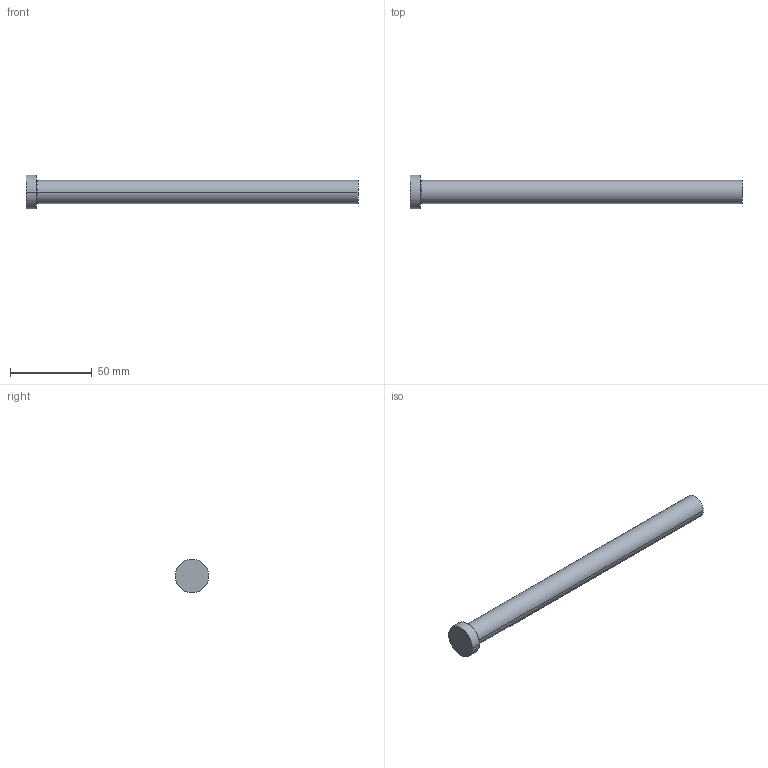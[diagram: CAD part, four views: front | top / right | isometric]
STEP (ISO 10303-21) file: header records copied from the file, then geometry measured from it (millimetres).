
FILE_DESCRIPTION (( 'STEP AP214' ), '1' );
FILE_NAME ('P35-8.STEP', '2020-03-12T11:58:54', ( '' ), ( '' ), 'SwSTEP 2.0', 'SolidWorks 2018', '' );
FILE_SCHEMA (( 'AUTOMOTIVE_DESIGN' ));
Length unit declared in the file: inch
Products named in the file (1): P35-8
Bounding box: 203.2 x 20.64 x 20.64 mm (x, y, z)
Volume: 33633.1 mm3; surface area: 9886.4 mm2
Topology: 1 solids, 1 shells, 13 faces, 24 edges, 14 vertices
Faces by surface type: cone 4, cylinder 4, plane 3, torus 2
Entity records: 366 total; most frequent: DIRECTION 68, CARTESIAN_POINT 52, ORIENTED_EDGE 48, AXIS2_PLACEMENT_3D 30, EDGE_CURVE 24, CIRCLE 16, VERTEX_POINT 14, EDGE_LOOP 14
